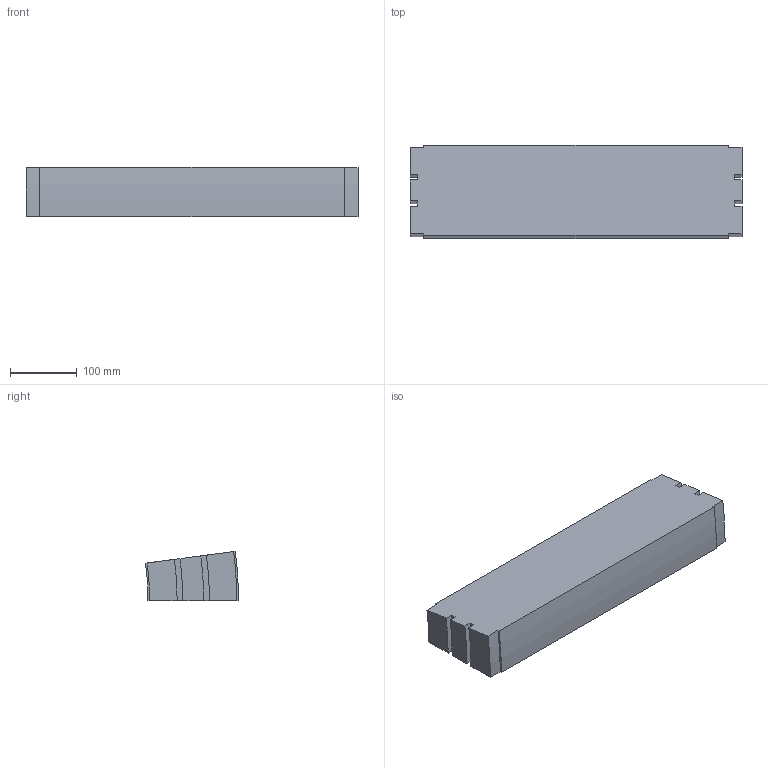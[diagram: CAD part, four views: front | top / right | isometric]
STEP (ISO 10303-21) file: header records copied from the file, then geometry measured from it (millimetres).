
FILE_DESCRIPTION (( 'STEP AP214' ), '1' );
FILE_NAME ('02.150V07.500.N FS-500-MTC-150 Bocht verticaal 7,5°.STEP', '2013-03-29T13:21:03', ( 'Gebruiker' ), ( '' ), 'SwSTEP 2.0', 'SolidWorks 2012', '' );
FILE_SCHEMA (( 'AUTOMOTIVE_DESIGN' ));
Length unit declared in the file: millimetre
Products named in the file (1): 02.150V07.500.N FS-500-MTC-150 Bocht verticaal 7,5°
Bounding box: 499 x 139.7 x 74.14 mm (x, y, z)
Volume: 4403465.7 mm3; surface area: 223440.9 mm2
Topology: 1 solids, 1 shells, 30 faces, 84 edges, 56 vertices
Faces by surface type: plane 16, cylinder 14
Entity records: 1010 total; most frequent: DIRECTION 174, CARTESIAN_POINT 171, ORIENTED_EDGE 168, EDGE_CURVE 84, AXIS2_PLACEMENT_3D 59, VECTOR 56, LINE 56, VERTEX_POINT 56
